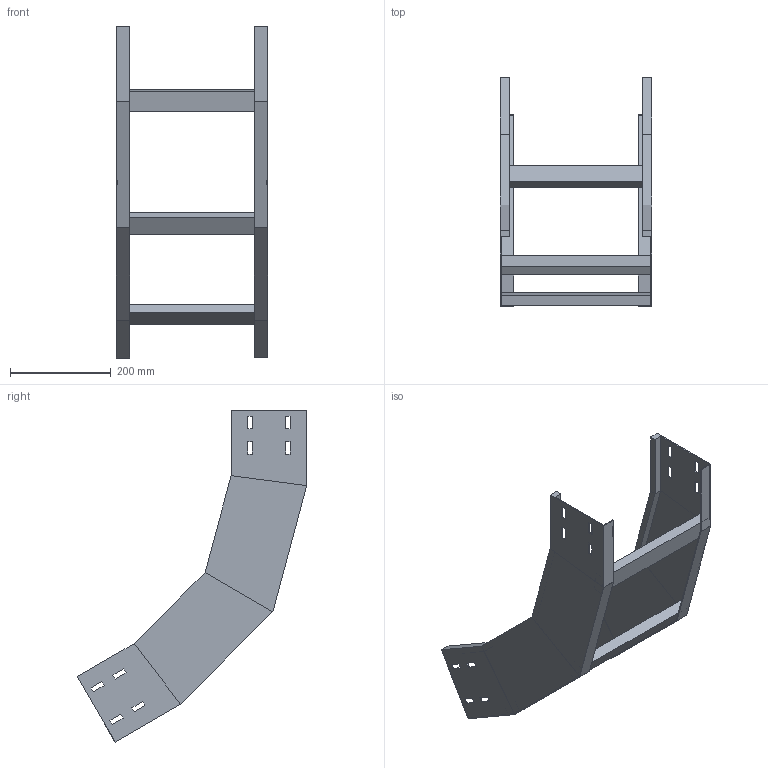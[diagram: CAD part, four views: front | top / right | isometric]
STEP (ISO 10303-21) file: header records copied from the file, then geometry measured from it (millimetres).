
FILE_DESCRIPTION (( 'STEP AP214' ), '1' );
FILE_NAME ('40J5F300.step', '2025-02-21T16:26:46', ( '' ), ( '' ), 'SwSTEP 2.0', 'SolidWorks 2023', '' );
FILE_SCHEMA (( 'AUTOMOTIVE_DESIGN' ));
Length unit declared in the file: millimetre
Products named in the file (3): 40J5F300; TRAVERSINO_300; LONGH.SALITA_60°_H150_R500
Assembly tree (5 placements, depth 2):
  40J5F300
    LONGH.SALITA_60°_H150_R500  x2
    TRAVERSINO_300  x3
Bounding box: 300 x 455.08 x 658.32 mm (x, y, z)
Volume: 1492120.4 mm3; surface area: 682599.3 mm2
Topology: 5 solids, 5 shells, 150 faces, 372 edges, 232 vertices
Faces by surface type: plane 150
Entity records: 2216 total; most frequent: CARTESIAN_POINT 372, ORIENTED_EDGE 360, DIRECTION 340, LINE 180, VECTOR 180, EDGE_CURVE 180, VERTEX_POINT 112, EDGE_LOOP 88
